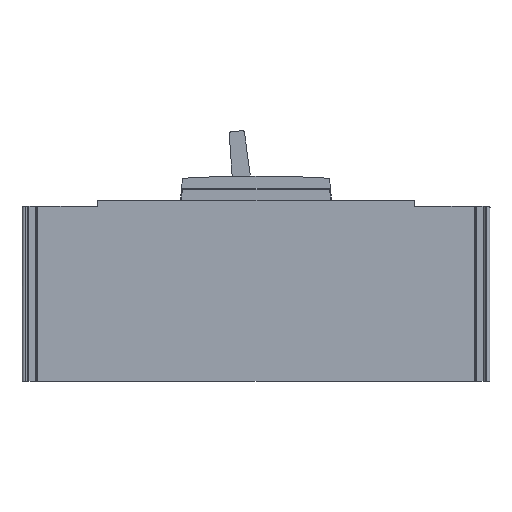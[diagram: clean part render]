
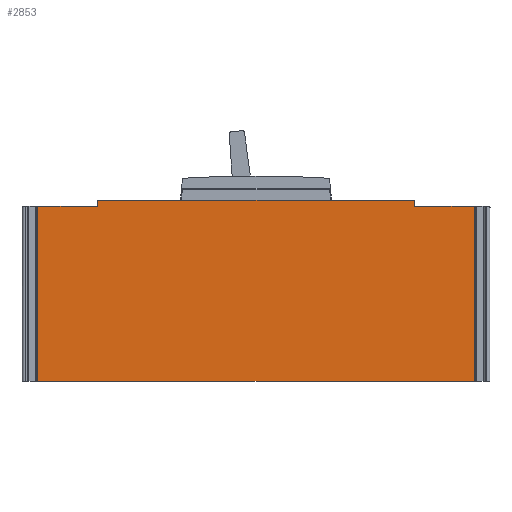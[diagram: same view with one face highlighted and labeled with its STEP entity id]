
A CAD part, left-side view. The second image highlights one B-rep face of the part: STEP entity #2853.
In plain terms, the highlighted planar face has unit normal (-1, 0, 0).
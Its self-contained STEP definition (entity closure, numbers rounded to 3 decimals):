
#83 = EDGE_CURVE ( 'NONE', #7919, #4765, #5793, .T. ) ;
#195 = CARTESIAN_POINT ( 'NONE',  ( -44.8, -25., 60. ) ) ;
#487 = VERTEX_POINT ( 'NONE', #2941 ) ;
#574 = ORIENTED_EDGE ( 'NONE', *, *, #2016, .T. ) ;
#625 = DIRECTION ( 'NONE',  ( 0., 0., -1. ) ) ;
#706 = DIRECTION ( 'NONE',  ( 0., 0., -1. ) ) ;
#816 = VECTOR ( 'NONE', #2360, 1000. ) ;
#833 = DIRECTION ( 'NONE',  ( 0., 1., 0. ) ) ;
#847 = ORIENTED_EDGE ( 'NONE', *, *, #1790, .F. ) ;
#911 = VERTEX_POINT ( 'NONE', #195 ) ;
#1007 = ORIENTED_EDGE ( 'NONE', *, *, #2294, .F. ) ;
#1020 = VECTOR ( 'NONE', #1551, 1000. ) ;
#1053 = ORIENTED_EDGE ( 'NONE', *, *, #3173, .F. ) ;
#1086 = EDGE_CURVE ( 'NONE', #487, #7919, #5209, .T. ) ;
#1227 = VECTOR ( 'NONE', #833, 1000. ) ;
#1230 = VECTOR ( 'NONE', #4222, 1000. ) ;
#1298 = VERTEX_POINT ( 'NONE', #5393 ) ;
#1352 = CARTESIAN_POINT ( 'NONE',  ( -44.8, -52.5, 0. ) ) ;
#1356 = CARTESIAN_POINT ( 'NONE',  ( -44.8, -52.5, 0. ) ) ;
#1401 = DIRECTION ( 'NONE',  ( 0., 0., -1. ) ) ;
#1551 = DIRECTION ( 'NONE',  ( 0., -1., 0. ) ) ;
#1590 = ORIENTED_EDGE ( 'NONE', *, *, #4327, .F. ) ;
#1619 = PLANE ( 'NONE',  #7400 ) ;
#1737 = ORIENTED_EDGE ( 'NONE', *, *, #83, .F. ) ;
#1790 = EDGE_CURVE ( 'NONE', #2551, #6837, #3999, .T. ) ;
#1864 = CARTESIAN_POINT ( 'NONE',  ( -44.8, 25., 60. ) ) ;
#1947 = ORIENTED_EDGE ( 'NONE', *, *, #5795, .F. ) ;
#1956 = EDGE_LOOP ( 'NONE', ( #574, #1007, #1737, #2090, #5119, #6241, #6345, #8693, #5244, #1053, #847, #1590, #1947 ) ) ;
#2016 = EDGE_CURVE ( 'NONE', #911, #7401, #6318, .T. ) ;
#2090 = ORIENTED_EDGE ( 'NONE', *, *, #1086, .F. ) ;
#2092 = EDGE_CURVE ( 'NONE', #5005, #1298, #8498, .T. ) ;
#2108 = LINE ( 'NONE', #4072, #2433 ) ;
#2255 = VECTOR ( 'NONE', #6320, 1000. ) ;
#2294 = EDGE_CURVE ( 'NONE', #4765, #7401, #7076, .T. ) ;
#2295 = CARTESIAN_POINT ( 'NONE',  ( -44.8, -52.5, 58. ) ) ;
#2360 = DIRECTION ( 'NONE',  ( 0., 1., 0. ) ) ;
#2433 = VECTOR ( 'NONE', #625, 1000. ) ;
#2495 = DIRECTION ( 'NONE',  ( 0., 0., -1. ) ) ;
#2501 = DIRECTION ( 'NONE',  ( 0., 0., -1. ) ) ;
#2551 = VERTEX_POINT ( 'NONE', #8555 ) ;
#2787 = CARTESIAN_POINT ( 'NONE',  ( -44.8, -72.3, 0. ) ) ;
#2853 = ADVANCED_FACE ( 'NONE', ( #5746 ), #1619, .F. ) ;
#2874 = LINE ( 'NONE', #7003, #1230 ) ;
#2904 = VECTOR ( 'NONE', #3824, 1000. ) ;
#2941 = CARTESIAN_POINT ( 'NONE',  ( -44.8, 52.5, 58. ) ) ;
#3173 = EDGE_CURVE ( 'NONE', #6837, #5005, #5175, .T. ) ;
#3477 = CARTESIAN_POINT ( 'NONE',  ( -44.8, 52.5, 59.7 ) ) ;
#3728 = CARTESIAN_POINT ( 'NONE',  ( -44.8, 0., 60. ) ) ;
#3780 = VECTOR ( 'NONE', #4525, 1000. ) ;
#3824 = DIRECTION ( 'NONE',  ( 0., -1., 0. ) ) ;
#3993 = VERTEX_POINT ( 'NONE', #2787 ) ;
#3999 = LINE ( 'NONE', #1352, #2255 ) ;
#4072 = CARTESIAN_POINT ( 'NONE',  ( -44.8, 72.3, 83.061 ) ) ;
#4098 = VERTEX_POINT ( 'NONE', #4283 ) ;
#4222 = DIRECTION ( 'NONE',  ( 0., -1., 0. ) ) ;
#4283 = CARTESIAN_POINT ( 'NONE',  ( -44.8, 72.3, 0. ) ) ;
#4320 = AXIS2_PLACEMENT_3D ( 'NONE', #8796, #8113, #2501 ) ;
#4327 = EDGE_CURVE ( 'NONE', #8088, #2551, #9039, .T. ) ;
#4525 = DIRECTION ( 'NONE',  ( 0., 0., 1. ) ) ;
#4593 = CARTESIAN_POINT ( 'NONE',  ( -44.8, -52.5, 58.7 ) ) ;
#4696 = DIRECTION ( 'NONE',  ( 0., -1., 0. ) ) ;
#4765 = VERTEX_POINT ( 'NONE', #7577 ) ;
#4915 = CARTESIAN_POINT ( 'NONE',  ( -44.8, -52.2, 60. ) ) ;
#4926 = CARTESIAN_POINT ( 'NONE',  ( -44.8, -72.3, 83.061 ) ) ;
#5005 = VERTEX_POINT ( 'NONE', #2295 ) ;
#5119 = ORIENTED_EDGE ( 'NONE', *, *, #5804, .F. ) ;
#5175 = LINE ( 'NONE', #1356, #8251 ) ;
#5209 = LINE ( 'NONE', #6030, #3780 ) ;
#5244 = ORIENTED_EDGE ( 'NONE', *, *, #2092, .F. ) ;
#5393 = CARTESIAN_POINT ( 'NONE',  ( -44.8, -72.3, 58. ) ) ;
#5556 = EDGE_CURVE ( 'NONE', #6570, #4098, #2108, .T. ) ;
#5631 = VECTOR ( 'NONE', #706, 1000. ) ;
#5746 = FACE_OUTER_BOUND ( 'NONE', #1956, .T. ) ;
#5793 = CIRCLE ( 'NONE', #8534, 0.3 ) ;
#5795 = EDGE_CURVE ( 'NONE', #911, #8088, #2874, .T. ) ;
#5804 = EDGE_CURVE ( 'NONE', #6570, #487, #6401, .T. ) ;
#5917 = DIRECTION ( 'NONE',  ( 1., 0., 0. ) ) ;
#6030 = CARTESIAN_POINT ( 'NONE',  ( -44.8, 52.5, 0. ) ) ;
#6241 = ORIENTED_EDGE ( 'NONE', *, *, #5556, .T. ) ;
#6318 = LINE ( 'NONE', #3728, #816 ) ;
#6320 = DIRECTION ( 'NONE',  ( 0., 0., -1. ) ) ;
#6345 = ORIENTED_EDGE ( 'NONE', *, *, #8580, .F. ) ;
#6401 = LINE ( 'NONE', #8606, #1020 ) ;
#6523 = DIRECTION ( 'NONE',  ( 0., 0., -1. ) ) ;
#6570 = VERTEX_POINT ( 'NONE', #7898 ) ;
#6672 = CARTESIAN_POINT ( 'NONE',  ( -44.8, 52.2, 59.7 ) ) ;
#6823 = CARTESIAN_POINT ( 'NONE',  ( -44.8, 0., 60. ) ) ;
#6837 = VERTEX_POINT ( 'NONE', #4593 ) ;
#7003 = CARTESIAN_POINT ( 'NONE',  ( -44.8, 0., 60. ) ) ;
#7076 = LINE ( 'NONE', #6823, #7518 ) ;
#7137 = CARTESIAN_POINT ( 'NONE',  ( -44.8, 0., 0. ) ) ;
#7297 = CARTESIAN_POINT ( 'NONE',  ( -44.8, 0., 58. ) ) ;
#7400 = AXIS2_PLACEMENT_3D ( 'NONE', #8676, #5917, #6523 ) ;
#7401 = VERTEX_POINT ( 'NONE', #1864 ) ;
#7505 = LINE ( 'NONE', #4926, #5631 ) ;
#7518 = VECTOR ( 'NONE', #4696, 1000. ) ;
#7577 = CARTESIAN_POINT ( 'NONE',  ( -44.8, 52.2, 60. ) ) ;
#7631 = EDGE_CURVE ( 'NONE', #1298, #3993, #7505, .T. ) ;
#7898 = CARTESIAN_POINT ( 'NONE',  ( -44.8, 72.3, 58. ) ) ;
#7919 = VERTEX_POINT ( 'NONE', #3477 ) ;
#8088 = VERTEX_POINT ( 'NONE', #4915 ) ;
#8113 = DIRECTION ( 'NONE',  ( 1., 0., 0. ) ) ;
#8251 = VECTOR ( 'NONE', #1401, 1000. ) ;
#8252 = LINE ( 'NONE', #7137, #1227 ) ;
#8498 = LINE ( 'NONE', #7297, #2904 ) ;
#8534 = AXIS2_PLACEMENT_3D ( 'NONE', #6672, #8773, #2495 ) ;
#8555 = CARTESIAN_POINT ( 'NONE',  ( -44.8, -52.5, 59.7 ) ) ;
#8580 = EDGE_CURVE ( 'NONE', #3993, #4098, #8252, .T. ) ;
#8606 = CARTESIAN_POINT ( 'NONE',  ( -44.8, 0., 58. ) ) ;
#8676 = CARTESIAN_POINT ( 'NONE',  ( -44.8, 0., 0. ) ) ;
#8693 = ORIENTED_EDGE ( 'NONE', *, *, #7631, .F. ) ;
#8773 = DIRECTION ( 'NONE',  ( 1., 0., 0. ) ) ;
#8796 = CARTESIAN_POINT ( 'NONE',  ( -44.8, -52.2, 59.7 ) ) ;
#9039 = CIRCLE ( 'NONE', #4320, 0.3 ) ;
